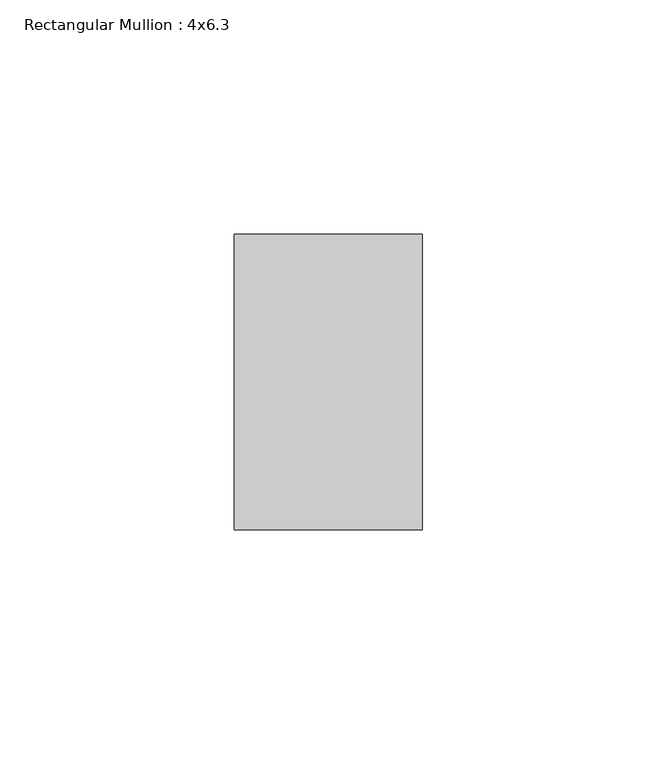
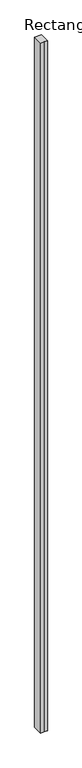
"""IFC4 building model written with IfcOpenShell, lengths in millimetres: member geometry, Rectangular Mullion : 4x6.3."""

from ifc_helpers import new_model, si_unit, frame, origin, place, context, project, spatial, polyline, outline, extrude, source, transform, mapped, element, save


def rectangular_mullion_4x6_3_6404baa5(model_context):
    return source(origin(), model_context, "Body", "SweptSolid", [
        extrude(outline(polyline([(-20.0, 20.0), (-20.0, 83.0), (20.0, 83.0), (20.0, 20.0), (0.0, 20.0), (-20.0, 20.0)])), frame((0.0, 0.0, -4421.903522), z_axis=(0.0, 0.0, 1.0), x_axis=(1.0, 0.0, 0.0)), (0.0, 0.0, 1.0), 4421.903522),
    ])


if __name__ == "__main__":
    model = new_model("IFC4")
    model_context = context("Model", 3, world=origin())
    ifc_project = project(units=[si_unit("LENGTHUNIT", "METRE", prefix="MILLI")], contexts=[model_context])
    site = spatial("IfcSite", under=ifc_project)
    building = spatial("IfcBuilding", under=site)
    placement = place(None, origin())
    rectangular_mullion_4x6_3_shape = rectangular_mullion_4x6_3_6404baa5(model_context)
    element("IfcMember", 1, ObjectType="Rectangular Mullion : 4x6.3", at=placement, inside=building, context=model_context, shape_type="MappedRepresentation", body=[
        mapped(rectangular_mullion_4x6_3_shape, transform((0.0, 0.0, 0.0), x_axis=(1.0, 0.0, 0.0), y_axis=(0.0, 1.0, 0.0), z_axis=(0.0, 0.0, 1.0))),
    ])
    save(model, "model.ifc")
